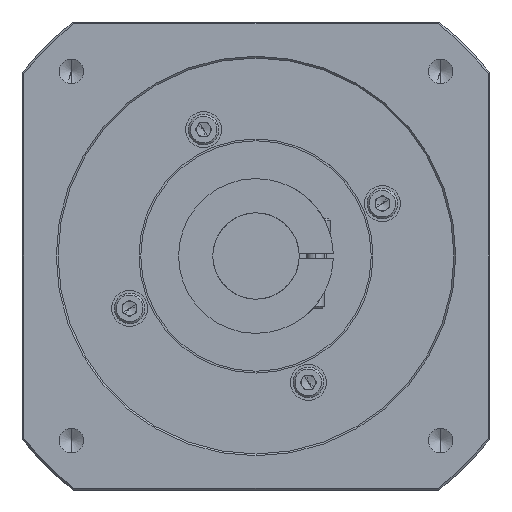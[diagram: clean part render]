
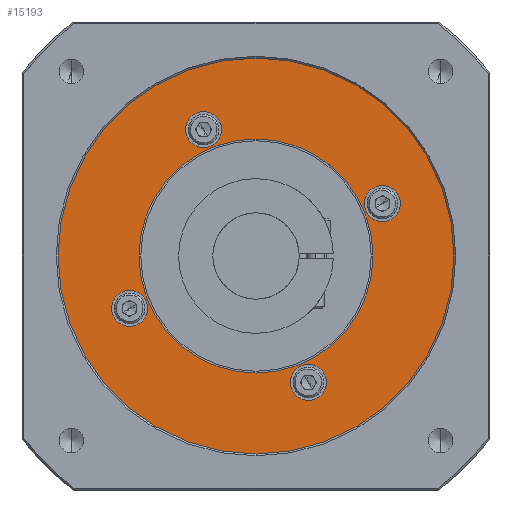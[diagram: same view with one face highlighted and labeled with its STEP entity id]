
A CAD part, front view. The second image highlights one B-rep face of the part: STEP entity #15193.
In plain terms, the highlighted planar face has unit normal (0, -1, 0).
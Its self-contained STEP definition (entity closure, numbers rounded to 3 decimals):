
#2258 = VERTEX_POINT ( 'NONE', #14428 ) ;
#2259 = VERTEX_POINT ( 'NONE', #14622 ) ;
#2297 = VERTEX_POINT ( 'NONE', #14718 ) ;
#2349 = EDGE_CURVE ( 'NONE', #2297, #2358, #6514, .T. ) ;
#2358 = VERTEX_POINT ( 'NONE', #6459 ) ;
#2369 = EDGE_CURVE ( 'NONE', #2371, #2372, #6408, .T. ) ;
#2371 = VERTEX_POINT ( 'NONE', #6507 ) ;
#2372 = VERTEX_POINT ( 'NONE', #6522 ) ;
#2412 = EDGE_CURVE ( 'NONE', #2259, #2258, #6630, .T. ) ;
#2648 = EDGE_CURVE ( 'NONE', #9552, #9547, #7609, .T. ) ;
#4653 = FACE_BOUND ( 'NONE', #15156, .T. ) ;
#4654 = CARTESIAN_POINT ( 'NONE',  ( -35.107, 10., -14.542 ) ) ;
#4655 = AXIS2_PLACEMENT_3D ( 'NONE', #4654, #4680, #4679 ) ;
#4669 = FACE_BOUND ( 'NONE', #15173, .T. ) ;
#4670 = CIRCLE ( 'NONE', #4655, 5. ) ;
#4671 = FACE_BOUND ( 'NONE', #15169, .T. ) ;
#4678 = FACE_BOUND ( 'NONE', #15159, .T. ) ;
#4679 = DIRECTION ( 'NONE',  ( 0., 0., -1. ) ) ;
#4680 = DIRECTION ( 'NONE',  ( 0., -1., 0. ) ) ;
#4706 = FACE_BOUND ( 'NONE', #15155, .T. ) ;
#4711 = FACE_OUTER_BOUND ( 'NONE', #15153, .T. ) ;
#4728 = PLANE ( 'NONE',  #4737 ) ;
#4729 = CARTESIAN_POINT ( 'NONE',  ( -55., 10., 0. ) ) ;
#4737 = AXIS2_PLACEMENT_3D ( 'NONE', #4729, #4744, #4743 ) ;
#4743 = DIRECTION ( 'NONE',  ( 0., 0., -1. ) ) ;
#4744 = DIRECTION ( 'NONE',  ( 0., -1., 0. ) ) ;
#4996 = DIRECTION ( 'NONE',  ( 0., 0., 1. ) ) ;
#4997 = DIRECTION ( 'NONE',  ( 0., 1., 0. ) ) ;
#5012 = CIRCLE ( 'NONE', #5025, 55. ) ;
#5024 = CARTESIAN_POINT ( 'NONE',  ( 0., 10., 0. ) ) ;
#5025 = AXIS2_PLACEMENT_3D ( 'NONE', #5024, #4997, #4996 ) ;
#5078 = CIRCLE ( 'NONE', #5080, 5. ) ;
#5079 = AXIS2_PLACEMENT_3D ( 'NONE', #5114, #5113, #5112 ) ;
#5080 = AXIS2_PLACEMENT_3D ( 'NONE', #5117, #5116, #5115 ) ;
#5082 = CARTESIAN_POINT ( 'NONE',  ( 0., 10., 0. ) ) ;
#5084 = DIRECTION ( 'NONE',  ( 0., 0., 1. ) ) ;
#5087 = CIRCLE ( 'NONE', #5100, 32.5 ) ;
#5088 = DIRECTION ( 'NONE',  ( 0., 0., -1. ) ) ;
#5090 = CARTESIAN_POINT ( 'NONE',  ( -14.542, 10., 35.107 ) ) ;
#5091 = CIRCLE ( 'NONE', #5094, 5. ) ;
#5093 = DIRECTION ( 'NONE',  ( 0., -1., 0. ) ) ;
#5094 = AXIS2_PLACEMENT_3D ( 'NONE', #5090, #5093, #5088 ) ;
#5099 = CIRCLE ( 'NONE', #5079, 5. ) ;
#5100 = AXIS2_PLACEMENT_3D ( 'NONE', #5082, #5103, #5084 ) ;
#5103 = DIRECTION ( 'NONE',  ( 0., 1., 0. ) ) ;
#5112 = DIRECTION ( 'NONE',  ( 0., 0., -1. ) ) ;
#5113 = DIRECTION ( 'NONE',  ( 0., -1., 0. ) ) ;
#5114 = CARTESIAN_POINT ( 'NONE',  ( 14.542, 10., -35.107 ) ) ;
#5115 = DIRECTION ( 'NONE',  ( 0., 0., -1. ) ) ;
#5116 = DIRECTION ( 'NONE',  ( 0., -1., 0. ) ) ;
#5117 = CARTESIAN_POINT ( 'NONE',  ( 35.107, 10., 14.542 ) ) ;
#5836 = CARTESIAN_POINT ( 'NONE',  ( -35.107, 10., -9.542 ) ) ;
#5868 = CARTESIAN_POINT ( 'NONE',  ( -35.107, 10., -19.542 ) ) ;
#6404 = DIRECTION ( 'NONE',  ( 0., -1., 0. ) ) ;
#6408 = CIRCLE ( 'NONE', #6417, 5. ) ;
#6410 = DIRECTION ( 'NONE',  ( 0., 0., -1. ) ) ;
#6417 = AXIS2_PLACEMENT_3D ( 'NONE', #6420, #6404, #6410 ) ;
#6420 = CARTESIAN_POINT ( 'NONE',  ( 14.542, 10., -35.107 ) ) ;
#6459 = CARTESIAN_POINT ( 'NONE',  ( 35.107, 10., 9.542 ) ) ;
#6507 = CARTESIAN_POINT ( 'NONE',  ( 14.542, 10., -30.107 ) ) ;
#6508 = DIRECTION ( 'NONE',  ( 0., 0., -1. ) ) ;
#6509 = DIRECTION ( 'NONE',  ( 0., -1., 0. ) ) ;
#6510 = AXIS2_PLACEMENT_3D ( 'NONE', #6513, #6509, #6508 ) ;
#6513 = CARTESIAN_POINT ( 'NONE',  ( 35.107, 10., 14.542 ) ) ;
#6514 = CIRCLE ( 'NONE', #6510, 5. ) ;
#6522 = CARTESIAN_POINT ( 'NONE',  ( 14.542, 10., -40.107 ) ) ;
#6602 = AXIS2_PLACEMENT_3D ( 'NONE', #6625, #6624, #6623 ) ;
#6623 = DIRECTION ( 'NONE',  ( 0., 0., -1. ) ) ;
#6624 = DIRECTION ( 'NONE',  ( 0., -1., 0. ) ) ;
#6625 = CARTESIAN_POINT ( 'NONE',  ( -14.542, 10., 35.107 ) ) ;
#6630 = CIRCLE ( 'NONE', #6602, 5. ) ;
#7607 = CARTESIAN_POINT ( 'NONE',  ( -35.107, 10., -14.542 ) ) ;
#7608 = AXIS2_PLACEMENT_3D ( 'NONE', #7607, #7684, #7683 ) ;
#7609 = CIRCLE ( 'NONE', #7608, 5. ) ;
#7683 = DIRECTION ( 'NONE',  ( 0., 0., -1. ) ) ;
#7684 = DIRECTION ( 'NONE',  ( 0., -1., 0. ) ) ;
#9547 = VERTEX_POINT ( 'NONE', #5868 ) ;
#9552 = VERTEX_POINT ( 'NONE', #5836 ) ;
#10318 = CARTESIAN_POINT ( 'NONE',  ( 0., 10., 32.5 ) ) ;
#10349 = CARTESIAN_POINT ( 'NONE',  ( 0., 10., -32.5 ) ) ;
#10389 = CARTESIAN_POINT ( 'NONE',  ( 0., 10., 0. ) ) ;
#10397 = AXIS2_PLACEMENT_3D ( 'NONE', #10389, #10425, #10424 ) ;
#10413 = CIRCLE ( 'NONE', #10397, 32.5 ) ;
#10424 = DIRECTION ( 'NONE',  ( 0., 0., 1. ) ) ;
#10425 = DIRECTION ( 'NONE',  ( 0., 1., 0. ) ) ;
#10577 = CIRCLE ( 'NONE', #10598, 55. ) ;
#10598 = AXIS2_PLACEMENT_3D ( 'NONE', #10655, #10654, #10653 ) ;
#10653 = DIRECTION ( 'NONE',  ( 0., 0., 1. ) ) ;
#10654 = DIRECTION ( 'NONE',  ( 0., 1., 0. ) ) ;
#10655 = CARTESIAN_POINT ( 'NONE',  ( 0., 10., 0. ) ) ;
#12479 = VERTEX_POINT ( 'NONE', #12865 ) ;
#12537 = EDGE_CURVE ( 'NONE', #12567, #12571, #10413, .T. ) ;
#12567 = VERTEX_POINT ( 'NONE', #10349 ) ;
#12571 = VERTEX_POINT ( 'NONE', #10318 ) ;
#12612 = EDGE_CURVE ( 'NONE', #12479, #12631, #10577, .T. ) ;
#12631 = VERTEX_POINT ( 'NONE', #15499 ) ;
#12865 = CARTESIAN_POINT ( 'NONE',  ( 0., 10., -55. ) ) ;
#14428 = CARTESIAN_POINT ( 'NONE',  ( -14.542, 10., 30.107 ) ) ;
#14622 = CARTESIAN_POINT ( 'NONE',  ( -14.542, 10., 40.107 ) ) ;
#14718 = CARTESIAN_POINT ( 'NONE',  ( 35.107, 10., 19.542 ) ) ;
#15086 = EDGE_CURVE ( 'NONE', #12631, #12479, #5012, .T. ) ;
#15134 = ORIENTED_EDGE ( 'NONE', *, *, #15158, .T. ) ;
#15145 = ORIENTED_EDGE ( 'NONE', *, *, #15194, .F. ) ;
#15147 = ORIENTED_EDGE ( 'NONE', *, *, #15086, .F. ) ;
#15148 = ORIENTED_EDGE ( 'NONE', *, *, #15157, .F. ) ;
#15149 = EDGE_CURVE ( 'NONE', #2258, #2259, #5091, .T. ) ;
#15151 = EDGE_CURVE ( 'NONE', #2358, #2297, #5078, .T. ) ;
#15152 = ORIENTED_EDGE ( 'NONE', *, *, #12537, .T. ) ;
#15153 = EDGE_LOOP ( 'NONE', ( #15147, #15184 ) ) ;
#15155 = EDGE_LOOP ( 'NONE', ( #15134, #15152 ) ) ;
#15156 = EDGE_LOOP ( 'NONE', ( #15192, #15191 ) ) ;
#15157 = EDGE_CURVE ( 'NONE', #2372, #2371, #5099, .T. ) ;
#15158 = EDGE_CURVE ( 'NONE', #12571, #12567, #5087, .T. ) ;
#15159 = EDGE_LOOP ( 'NONE', ( #15167, #15145 ) ) ;
#15167 = ORIENTED_EDGE ( 'NONE', *, *, #2648, .F. ) ;
#15168 = ORIENTED_EDGE ( 'NONE', *, *, #2349, .F. ) ;
#15169 = EDGE_LOOP ( 'NONE', ( #15168, #15170 ) ) ;
#15170 = ORIENTED_EDGE ( 'NONE', *, *, #15151, .F. ) ;
#15173 = EDGE_LOOP ( 'NONE', ( #15185, #15148 ) ) ;
#15184 = ORIENTED_EDGE ( 'NONE', *, *, #12612, .F. ) ;
#15185 = ORIENTED_EDGE ( 'NONE', *, *, #2369, .F. ) ;
#15191 = ORIENTED_EDGE ( 'NONE', *, *, #15149, .F. ) ;
#15192 = ORIENTED_EDGE ( 'NONE', *, *, #2412, .F. ) ;
#15193 = ADVANCED_FACE ( 'NONE', ( #4678, #4653, #4671, #4669, #4706, #4711 ), #4728, .T. ) ;
#15194 = EDGE_CURVE ( 'NONE', #9547, #9552, #4670, .T. ) ;
#15499 = CARTESIAN_POINT ( 'NONE',  ( 0., 10., 55. ) ) ;
